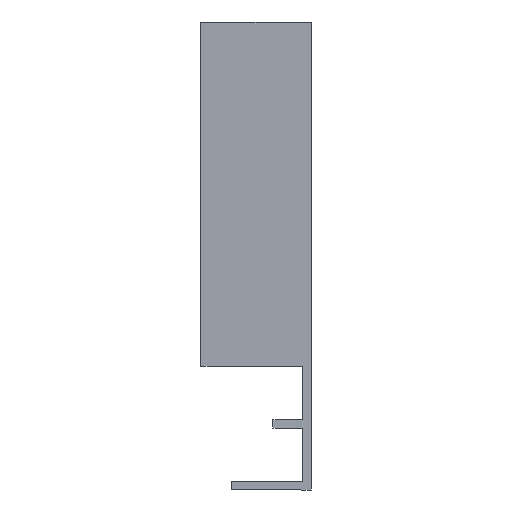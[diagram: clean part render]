
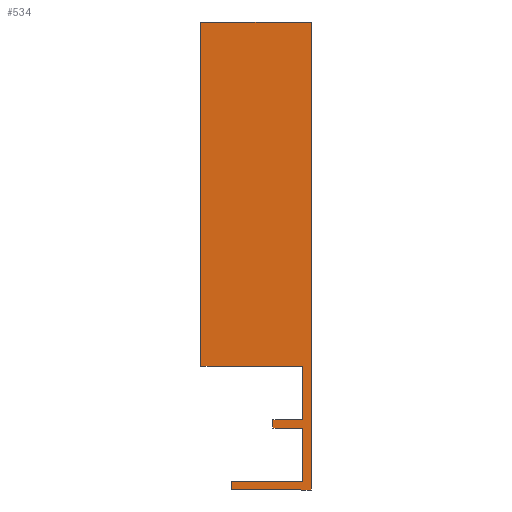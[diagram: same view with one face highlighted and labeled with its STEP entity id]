
A CAD part, left-side view. The second image highlights one B-rep face of the part: STEP entity #534.
In plain terms, the highlighted planar face has unit normal (-1, 0, 0).
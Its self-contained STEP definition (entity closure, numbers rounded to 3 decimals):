
#5 = VERTEX_POINT ( 'NONE', #453 ) ;
#8 = VERTEX_POINT ( 'NONE', #454 ) ;
#12 = VERTEX_POINT ( 'NONE', #43 ) ;
#13 = VERTEX_POINT ( 'NONE', #38 ) ;
#15 = VERTEX_POINT ( 'NONE', #45 ) ;
#19 = VERTEX_POINT ( 'NONE', #49 ) ;
#22 = VERTEX_POINT ( 'NONE', #52 ) ;
#24 = VERTEX_POINT ( 'NONE', #54 ) ;
#25 = VERTEX_POINT ( 'NONE', #55 ) ;
#27 = VERTEX_POINT ( 'NONE', #57 ) ;
#29 = VERTEX_POINT ( 'NONE', #59 ) ;
#31 = VERTEX_POINT ( 'NONE', #61 ) ;
#38 = CARTESIAN_POINT ( 'NONE',  ( -288.5, 6., -17.9 ) ) ;
#43 = CARTESIAN_POINT ( 'NONE',  ( -288.5, -5.5, 49.7 ) ) ;
#45 = CARTESIAN_POINT ( 'NONE',  ( -288.5, -4.3, -16.7 ) ) ;
#49 = CARTESIAN_POINT ( 'NONE',  ( -288.5, -4.3, 0. ) ) ;
#52 = CARTESIAN_POINT ( 'NONE',  ( -288.5, 10.4, 0. ) ) ;
#54 = CARTESIAN_POINT ( 'NONE',  ( -288.5, 10.4, 49.7 ) ) ;
#55 = CARTESIAN_POINT ( 'NONE',  ( -288.5, -4.3, -7.75 ) ) ;
#57 = CARTESIAN_POINT ( 'NONE',  ( -288.5, 0., -7.75 ) ) ;
#59 = CARTESIAN_POINT ( 'NONE',  ( -288.5, 0., -8.95 ) ) ;
#61 = CARTESIAN_POINT ( 'NONE',  ( -288.5, -4.3, -8.95 ) ) ;
#63 = CARTESIAN_POINT ( 'NONE',  ( -288.5, -4.3, -16.7 ) ) ;
#64 = CARTESIAN_POINT ( 'NONE',  ( -288.5, 6., -16.7 ) ) ;
#66 = DIRECTION ( 'NONE',  ( 0., 1., 0. ) ) ;
#67 = DIRECTION ( 'NONE',  ( 0., 0., -1. ) ) ;
#78 = CARTESIAN_POINT ( 'NONE',  ( -288.5, 10.4, 0. ) ) ;
#82 = CARTESIAN_POINT ( 'NONE',  ( -288.5, -4.3, -7.75 ) ) ;
#83 = DIRECTION ( 'NONE',  ( 0., -1., 0. ) ) ;
#87 = DIRECTION ( 'NONE',  ( 0., 1., 0. ) ) ;
#111 = CARTESIAN_POINT ( 'NONE',  ( -288.5, 0., -8.95 ) ) ;
#112 = DIRECTION ( 'NONE',  ( 0., -1., 0. ) ) ;
#113 = CARTESIAN_POINT ( 'NONE',  ( -288.5, 10.4, 49.7 ) ) ;
#119 = CARTESIAN_POINT ( 'NONE',  ( -288.5, -5.5, 49.7 ) ) ;
#120 = DIRECTION ( 'NONE',  ( 0., 1., 0. ) ) ;
#123 = CARTESIAN_POINT ( 'NONE',  ( -288.5, 6., -17.9 ) ) ;
#124 = DIRECTION ( 'NONE',  ( 0., -1., 0. ) ) ;
#128 = DIRECTION ( 'NONE',  ( 0., 0., -1. ) ) ;
#129 = CARTESIAN_POINT ( 'NONE',  ( -288.5, -4.3, 0. ) ) ;
#130 = DIRECTION ( 'NONE',  ( 0., 0., -1. ) ) ;
#145 = CARTESIAN_POINT ( 'NONE',  ( -288.5, -4.3, -8.95 ) ) ;
#146 = DIRECTION ( 'NONE',  ( 0., 0., -1. ) ) ;
#147 = CARTESIAN_POINT ( 'NONE',  ( -288.5, -5.5, -17.9 ) ) ;
#148 = DIRECTION ( 'NONE',  ( 0., 0., 1. ) ) ;
#152 = CARTESIAN_POINT ( 'NONE',  ( -288.5, 0., -7.75 ) ) ;
#153 = DIRECTION ( 'NONE',  ( 0., 0., -1. ) ) ;
#162 = PLANE ( 'NONE',  #519 ) ;
#165 = CARTESIAN_POINT ( 'NONE',  ( -288.5, 6., -16.7 ) ) ;
#171 = DIRECTION ( 'NONE',  ( -1., 0., 0. ) ) ;
#172 = DIRECTION ( 'NONE',  ( 0., -1., 0. ) ) ;
#241 = LINE ( 'NONE', #78, #374 ) ;
#248 = VECTOR ( 'NONE', #67, 1000. ) ;
#250 = LINE ( 'NONE', #64, #248 ) ;
#277 = EDGE_LOOP ( 'NONE', ( #339, #311, #315, #323, #318, #329, #327, #364, #292, #337, #289, #286 ) ) ;
#279 = VECTOR ( 'NONE', #66, 1000. ) ;
#286 = ORIENTED_EDGE ( 'NONE', *, *, #513, .T. ) ;
#289 = ORIENTED_EDGE ( 'NONE', *, *, #479, .T. ) ;
#292 = ORIENTED_EDGE ( 'NONE', *, *, #467, .T. ) ;
#311 = ORIENTED_EDGE ( 'NONE', *, *, #457, .T. ) ;
#315 = ORIENTED_EDGE ( 'NONE', *, *, #503, .T. ) ;
#318 = ORIENTED_EDGE ( 'NONE', *, *, #483, .T. ) ;
#323 = ORIENTED_EDGE ( 'NONE', *, *, #514, .T. ) ;
#327 = ORIENTED_EDGE ( 'NONE', *, *, #465, .T. ) ;
#329 = ORIENTED_EDGE ( 'NONE', *, *, #505, .T. ) ;
#337 = ORIENTED_EDGE ( 'NONE', *, *, #516, .T. ) ;
#339 = ORIENTED_EDGE ( 'NONE', *, *, #455, .T. ) ;
#360 = VECTOR ( 'NONE', #120, 1000. ) ;
#364 = ORIENTED_EDGE ( 'NONE', *, *, #506, .T. ) ;
#365 = LINE ( 'NONE', #63, #279 ) ;
#371 = VECTOR ( 'NONE', #87, 1000. ) ;
#374 = VECTOR ( 'NONE', #83, 1000. ) ;
#382 = LINE ( 'NONE', #82, #371 ) ;
#388 = LINE ( 'NONE', #119, #360 ) ;
#389 = LINE ( 'NONE', #111, #390 ) ;
#390 = VECTOR ( 'NONE', #112, 1000. ) ;
#395 = LINE ( 'NONE', #113, #403 ) ;
#399 = LINE ( 'NONE', #123, #400 ) ;
#400 = VECTOR ( 'NONE', #124, 1000. ) ;
#403 = VECTOR ( 'NONE', #128, 1000. ) ;
#404 = VECTOR ( 'NONE', #146, 1000. ) ;
#405 = LINE ( 'NONE', #129, #406 ) ;
#406 = VECTOR ( 'NONE', #130, 1000. ) ;
#410 = LINE ( 'NONE', #145, #404 ) ;
#420 = LINE ( 'NONE', #147, #421 ) ;
#421 = VECTOR ( 'NONE', #148, 1000. ) ;
#424 = LINE ( 'NONE', #152, #425 ) ;
#425 = VECTOR ( 'NONE', #153, 1000. ) ;
#430 = FACE_OUTER_BOUND ( 'NONE', #277, .T. ) ;
#453 = CARTESIAN_POINT ( 'NONE',  ( -288.5, -5.5, -17.9 ) ) ;
#454 = CARTESIAN_POINT ( 'NONE',  ( -288.5, 6., -16.7 ) ) ;
#455 = EDGE_CURVE ( 'NONE', #15, #8, #365, .T. ) ;
#457 = EDGE_CURVE ( 'NONE', #8, #13, #250, .T. ) ;
#465 = EDGE_CURVE ( 'NONE', #22, #19, #241, .T. ) ;
#467 = EDGE_CURVE ( 'NONE', #25, #27, #382, .T. ) ;
#479 = EDGE_CURVE ( 'NONE', #29, #31, #389, .T. ) ;
#483 = EDGE_CURVE ( 'NONE', #12, #24, #388, .T. ) ;
#503 = EDGE_CURVE ( 'NONE', #13, #5, #399, .T. ) ;
#505 = EDGE_CURVE ( 'NONE', #24, #22, #395, .T. ) ;
#506 = EDGE_CURVE ( 'NONE', #19, #25, #405, .T. ) ;
#513 = EDGE_CURVE ( 'NONE', #31, #15, #410, .T. ) ;
#514 = EDGE_CURVE ( 'NONE', #5, #12, #420, .T. ) ;
#516 = EDGE_CURVE ( 'NONE', #27, #29, #424, .T. ) ;
#519 = AXIS2_PLACEMENT_3D ( 'NONE', #165, #171, #172 ) ;
#534 = ADVANCED_FACE ( 'NONE', ( #430 ), #162, .T. ) ;
